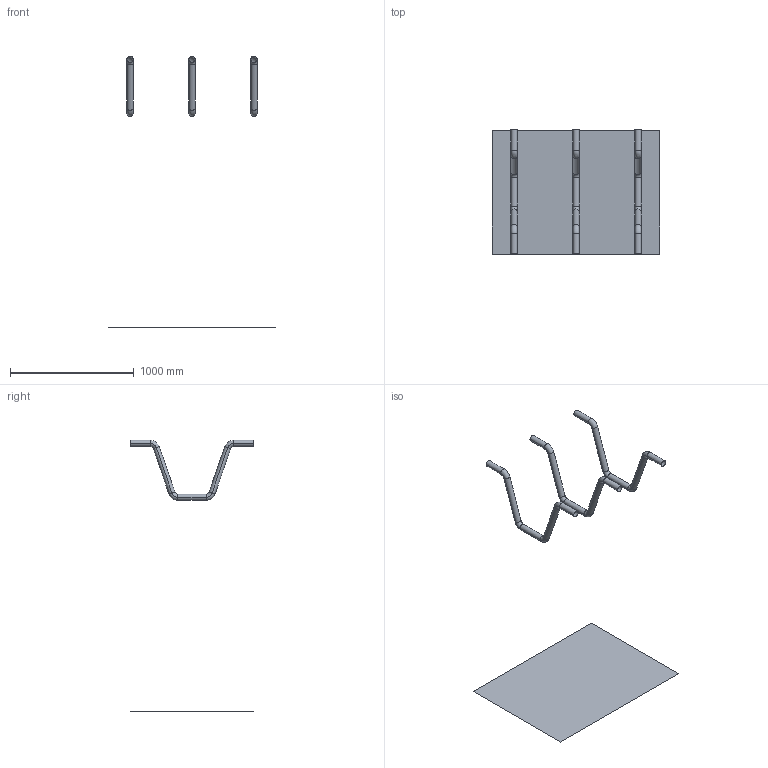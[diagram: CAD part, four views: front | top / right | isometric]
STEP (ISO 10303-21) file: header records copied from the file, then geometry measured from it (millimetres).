
FILE_DESCRIPTION(('CATIA V5 STEP Exchange'),'2;1');
FILE_NAME('C:\_Andres\UNIVERSIDAD\IQS\ASIGNATURAS\DAO\EXF\EXF-16172c\2inicio\Uria_Ciurana_Ej08_v35.stp','2017-03-05T21:54:59+00:00',('none'),('none'),'CATIA Version 5-6 Release 2014 SP1 HF18','CATIA V5 STEP AP203','none');
FILE_SCHEMA(('CONFIG_CONTROL_DESIGN'));
Length unit declared in the file: millimetre
Products named in the file (1): Uria_Ciurana_Ej08_v35
Bounding box: 1350 x 1000 x 2190 mm (x, y, z)
Surface area: 2095894.2 mm2 (no closed solid volume)
Topology: 0 solids, 4 shells, 55 faces, 118 edges, 64 vertices
Faces by surface type: cylinder 30, torus 24, plane 1
Entity records: 1283 total; most frequent: ORIENTED_EDGE 220, CARTESIAN_POINT 208, DIRECTION 168, EDGE_CURVE 118, AXIS2_PLACEMENT_3D 110, CIRCLE 84, VERTEX_POINT 64, ADVANCED_FACE 55
